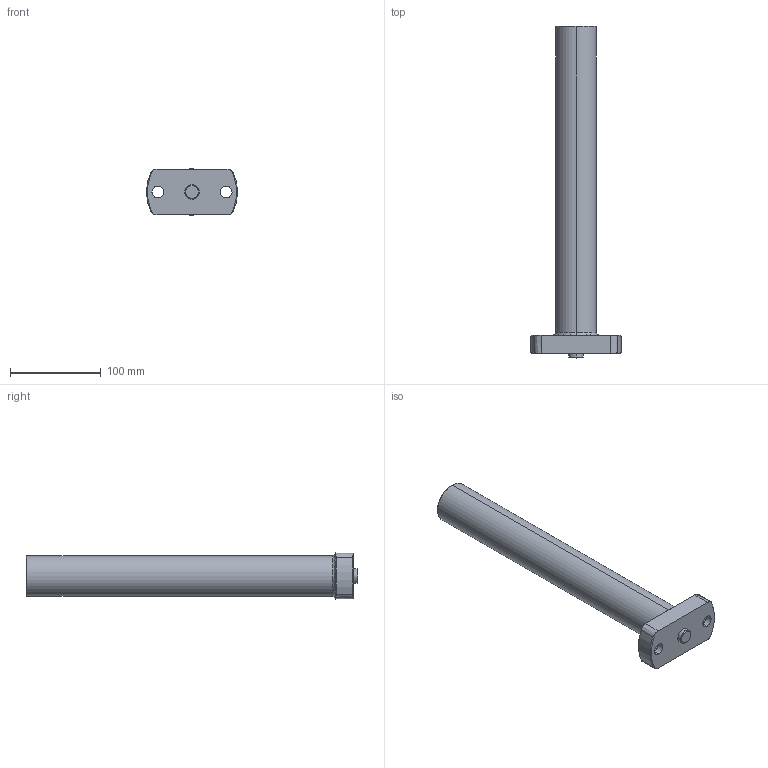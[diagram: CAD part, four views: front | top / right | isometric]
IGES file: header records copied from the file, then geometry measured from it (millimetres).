
Start section: START RECORD GO HERE.
Global section: file name: 720-045 +360 .igs; native system: DASSAULT SYSTEMES CATIA V5 R20 - www.3ds.com; preprocessor: CATIA Version 5 Release 20 ; author: Utente; organization: NB04-ASUS; date: 20201025.135210; units: millimetre
Bounding box: 99.65 x 365 x 51 mm (x, y, z)
Surface area: 64610.5 mm2 (no closed solid volume)
Topology: 0 solids, 0 shells, 39 faces, 200 edges, 200 vertices
Faces by surface type: revolution 28, plane 11
